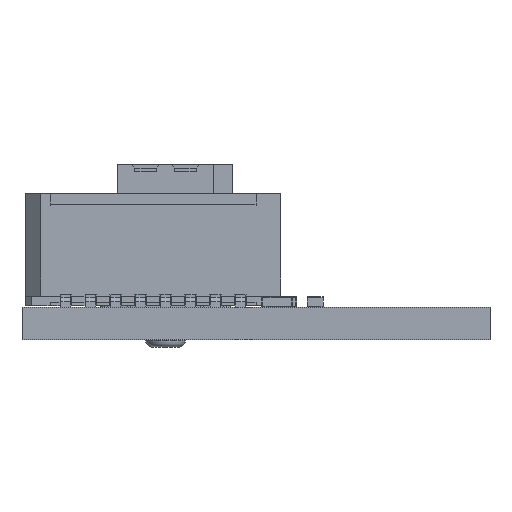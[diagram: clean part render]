
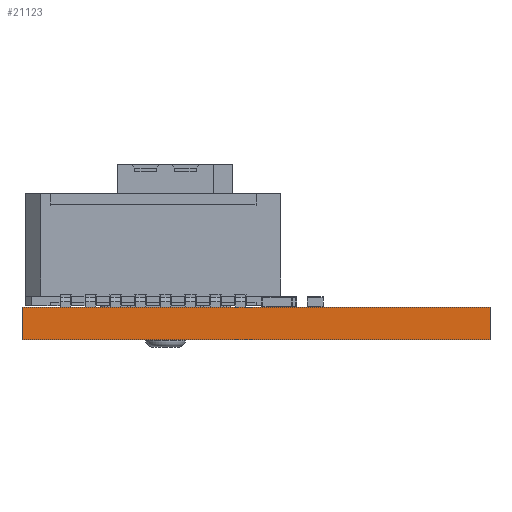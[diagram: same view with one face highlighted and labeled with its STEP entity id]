
A CAD part, left-side view. The second image highlights one B-rep face of the part: STEP entity #21123.
In plain terms, the highlighted planar face has unit normal (-1, 0, 0).
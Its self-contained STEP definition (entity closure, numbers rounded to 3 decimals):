
#364=FACE_OUTER_BOUND('',#1477,.T.);
#1477=EDGE_LOOP('',(#13652,#13653,#13654,#13655));
#2652=LINE('',#29044,#5572);
#2657=LINE('',#29068,#5577);
#2668=LINE('',#29090,#5588);
#2669=LINE('',#29092,#5589);
#5572=VECTOR('',#23565,15.);
#5577=VECTOR('',#23588,1.027);
#5588=VECTOR('',#23613,1.027);
#5589=VECTOR('',#23616,15.);
#8493=VERTEX_POINT('',#29041);
#8494=VERTEX_POINT('',#29043);
#8504=VERTEX_POINT('',#29067);
#8508=VERTEX_POINT('',#29088);
#10504=EDGE_CURVE('',#8493,#8494,#2652,.T.);
#10516=EDGE_CURVE('',#8504,#8494,#2657,.T.);
#10528=EDGE_CURVE('',#8508,#8493,#2668,.T.);
#10529=EDGE_CURVE('',#8508,#8504,#2669,.T.);
#13652=ORIENTED_EDGE('',*,*,#10528,.F.);
#13653=ORIENTED_EDGE('',*,*,#10529,.T.);
#13654=ORIENTED_EDGE('',*,*,#10516,.T.);
#13655=ORIENTED_EDGE('',*,*,#10504,.F.);
#19770=PLANE('',#22277);
#21123=ADVANCED_FACE('',(#364),#19770,.F.);
#22277=AXIS2_PLACEMENT_3D('',#29091,#23614,#23615);
#23565=DIRECTION('',(0.,-1.,0.));
#23588=DIRECTION('',(0.,0.,1.));
#23613=DIRECTION('',(0.,0.,1.));
#23614=DIRECTION('center_axis',(1.,0.,0.));
#23615=DIRECTION('ref_axis',(0.,0.,-1.));
#23616=DIRECTION('',(0.,-1.,0.));
#29041=CARTESIAN_POINT('',(0.,15.,0.));
#29043=CARTESIAN_POINT('',(0.,0.,0.));
#29044=CARTESIAN_POINT('',(0.,15.,0.));
#29067=CARTESIAN_POINT('',(0.,0.,-1.027));
#29068=CARTESIAN_POINT('',(0.,0.,-1.027));
#29088=CARTESIAN_POINT('',(0.,15.,-1.027));
#29090=CARTESIAN_POINT('',(0.,15.,-1.027));
#29091=CARTESIAN_POINT('Origin',(0.,15.,-1.027));
#29092=CARTESIAN_POINT('',(0.,15.,-1.027));
